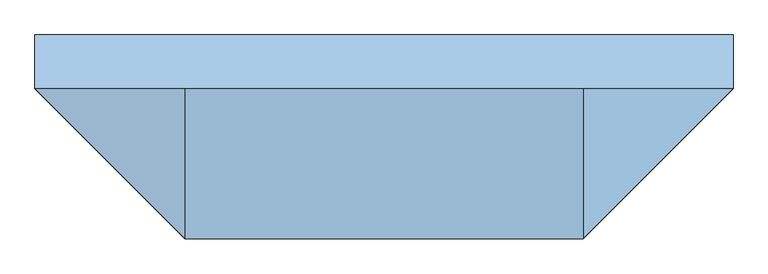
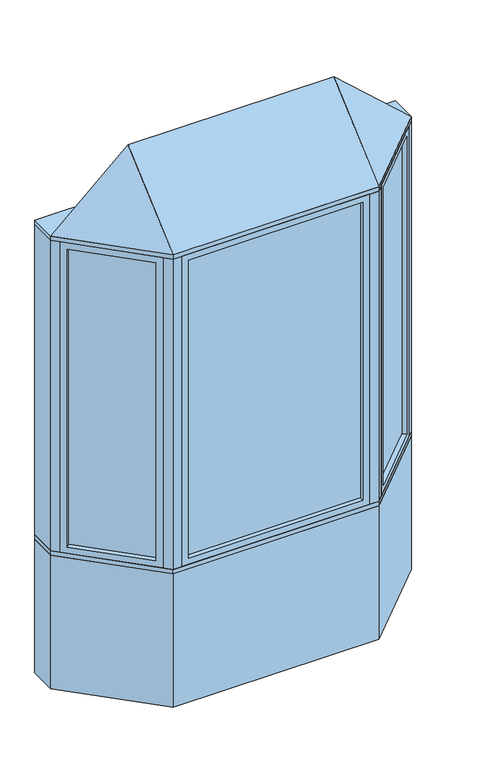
"""IFC4 building model written with IfcOpenShell, lengths in millimetres: window geometry, Pollard_Windows_Tudor Casement Bows and Bays : AML-BAY 45 AFR0518-10-500."""

from ifc_helpers import new_model, si_unit, frame, origin, origin_with_axes, place, context, project, spatial, polyline, outline, extrude, faceted_brep, source, transform, mapped, element, save


def window_94679562(model_context):
    return source(origin(), model_context, "Body", "SolidModel", [
        extrude(outline(polyline([(924.0964271, -104.763169), (598.324814, -430.5347822), (594.7327115, -426.9426797), (920.5043247, -101.1710666), (924.0964271, -104.763169)])), frame((0.0, 0.0, 823.1628), z_axis=(0.0, 0.0, 1.0), x_axis=(1.0, 0.0, 0.0)), (0.0, 0.0, 1.0), 1753.6704),
        faceted_brep([(915.116171, -113.7434252, 835.8628), (933.0766833, -131.7039374, 835.8628), (933.0766833, -131.7039374, 2564.1332), (915.116171, -113.7434252, 2564.1332), (920.5043247, -101.1710666, 823.1628), (924.0964271, -104.763169, 823.1628), (924.0964271, -104.763169, 2576.8332), (920.5043247, -101.1710666, 2576.8332), (893.5635563, -92.1908105, 835.8628), (911.5240686, -110.1513227, 835.8628), (911.5240686, -110.1513227, 2564.1332), (893.5635563, -92.1908105, 2564.1332), (958.4369265, -106.3436941, 799.998), (918.9237996, -66.8305672, 799.998), (918.9237996, -66.8305672, 2599.998), (958.4369265, -106.3436941, 2599.998), (625.2655823, -439.5150383, 2564.1332), (607.3050701, -421.5545261, 2564.1332), (598.324814, -430.5347822, 2576.8332), (594.7327115, -426.9426797, 2576.8332), (603.7129677, -417.9624236, 2564.1332), (585.7524554, -400.0019114, 2564.1332), (560.3922121, -425.3621547, 2599.998), (599.9053391, -464.8752816, 2599.998), (625.2655823, -439.5150383, 835.8628), (607.3050701, -421.5545261, 835.8628), (598.324814, -430.5347822, 823.1628), (594.7327115, -426.9426797, 823.1628), (603.7129677, -417.9624236, 835.8628), (585.7524554, -400.0019114, 835.8628), (560.3922121, -425.3621547, 799.998), (599.9053391, -464.8752816, 799.998)], [[[0, 1, 2, 3]], [[4, 5, 6, 7]], [[8, 9, 10, 11]], [[12, 13, 14, 15]], [[3, 2, 16, 17]], [[7, 6, 18, 19]], [[11, 10, 20, 21]], [[15, 14, 22, 23]], [[17, 16, 24, 25]], [[19, 18, 26, 27]], [[21, 20, 28, 29]], [[23, 22, 30, 31]], [[25, 24, 1, 0]], [[5, 26, 18, 6], [3, 17, 25, 0]], [[27, 26, 5, 4]], [[7, 19, 27, 4], [9, 28, 20, 10]], [[29, 28, 9, 8]], [[13, 30, 22, 14], [11, 21, 29, 8]], [[31, 30, 13, 12]], [[15, 23, 31, 12], [1, 24, 16, 2]]]),
        extrude(outline(polyline([(-598.324814, -430.5347822), (-924.0964271, -104.763169), (-920.5043247, -101.1710666), (-594.7327115, -426.9426797), (-598.324814, -430.5347822)])), frame((0.0, 0.0, 823.1628), z_axis=(0.0, 0.0, 1.0), x_axis=(1.0, 0.0, 0.0)), (0.0, 0.0, 1.0), 1753.6704),
        faceted_brep([(-603.7129677, -417.9624236, 2564.1332), (-585.7524554, -400.0019114, 2564.1332), (-585.7524554, -400.0019114, 835.8628), (-603.7129677, -417.9624236, 835.8628), (-598.324814, -430.5347822, 2576.8332), (-594.7327115, -426.9426797, 2576.8332), (-594.7327115, -426.9426797, 823.1628), (-598.324814, -430.5347822, 823.1628), (-625.2655823, -439.5150383, 2564.1332), (-607.3050701, -421.5545261, 2564.1332), (-607.3050701, -421.5545261, 835.8628), (-625.2655823, -439.5150383, 835.8628), (-560.3922121, -425.3621547, 2599.998), (-599.9053391, -464.8752816, 2599.998), (-599.9053391, -464.8752816, 799.998), (-560.3922121, -425.3621547, 799.998), (-893.5635563, -92.1908105, 835.8628), (-911.5240686, -110.1513227, 835.8628), (-920.5043247, -101.1710666, 823.1628), (-924.0964271, -104.763169, 823.1628), (-915.116171, -113.7434252, 835.8628), (-933.0766833, -131.7039374, 835.8628), (-958.4369265, -106.3436941, 799.998), (-918.9237996, -66.8305672, 799.998), (-893.5635563, -92.1908105, 2564.1332), (-911.5240686, -110.1513227, 2564.1332), (-920.5043247, -101.1710666, 2576.8332), (-924.0964271, -104.763169, 2576.8332), (-915.116171, -113.7434252, 2564.1332), (-933.0766833, -131.7039374, 2564.1332), (-958.4369265, -106.3436941, 2599.998), (-918.9237996, -66.8305672, 2599.998)], [[[0, 1, 2, 3]], [[4, 5, 6, 7]], [[8, 9, 10, 11]], [[12, 13, 14, 15]], [[3, 2, 16, 17]], [[7, 6, 18, 19]], [[11, 10, 20, 21]], [[15, 14, 22, 23]], [[17, 16, 24, 25]], [[19, 18, 26, 27]], [[21, 20, 28, 29]], [[23, 22, 30, 31]], [[15, 23, 31, 12], [1, 24, 16, 2]], [[25, 24, 1, 0]], [[5, 26, 18, 6], [3, 17, 25, 0]], [[27, 26, 5, 4]], [[7, 19, 27, 4], [9, 28, 20, 10]], [[29, 28, 9, 8]], [[13, 30, 22, 14], [11, 21, 29, 8]], [[31, 30, 13, 12]]]),
        extrude(outline(polyline([(491.3852, -474.8306207), (-491.3852, -474.8306207), (-491.3852, -469.7506207), (491.3852, -469.7506207), (491.3852, -474.8306207)])), frame((0.0, 0.0, 823.1628), z_axis=(0.0, 0.0, 1.0), x_axis=(1.0, 0.0, 0.0)), (0.0, 0.0, 1.0), 1753.6704),
        faceted_brep([(478.6852, -474.8306207, 835.8628), (478.6852, -500.2306207, 835.8628), (478.6852, -500.2306207, 2564.1332), (478.6852, -474.8306207, 2564.1332), (491.3852, -469.7506207, 823.1628), (491.3852, -474.8306207, 823.1628), (491.3852, -474.8306207, 2576.8332), (491.3852, -469.7506207, 2576.8332), (478.6852, -444.3506207, 835.8628), (478.6852, -469.7506207, 835.8628), (478.6852, -469.7506207, 2564.1332), (478.6852, -444.3506207, 2564.1332), (514.55, -500.2306207, 799.998), (514.55, -444.3506207, 799.998), (514.55, -444.3506207, 2599.998), (514.55, -500.2306207, 2599.998), (-478.6852, -500.2306207, 2564.1332), (-478.6852, -474.8306207, 2564.1332), (-491.3852, -474.8306207, 2576.8332), (-491.3852, -469.7506207, 2576.8332), (-478.6852, -469.7506207, 2564.1332), (-478.6852, -444.3506207, 2564.1332), (-514.55, -444.3506207, 2599.998), (-514.55, -500.2306207, 2599.998), (-478.6852, -500.2306207, 835.8628), (-478.6852, -474.8306207, 835.8628), (-491.3852, -474.8306207, 823.1628), (-491.3852, -469.7506207, 823.1628), (-478.6852, -469.7506207, 835.8628), (-478.6852, -444.3506207, 835.8628), (-514.55, -444.3506207, 799.998), (-514.55, -500.2306207, 799.998)], [[[0, 1, 2, 3]], [[4, 5, 6, 7]], [[8, 9, 10, 11]], [[12, 13, 14, 15]], [[3, 2, 16, 17]], [[7, 6, 18, 19]], [[11, 10, 20, 21]], [[15, 14, 22, 23]], [[17, 16, 24, 25]], [[19, 18, 26, 27]], [[21, 20, 28, 29]], [[23, 22, 30, 31]], [[15, 23, 31, 12], [1, 24, 16, 2]], [[25, 24, 1, 0]], [[5, 26, 18, 6], [3, 17, 25, 0]], [[27, 26, 5, 4]], [[7, 19, 27, 4], [9, 28, 20, 10]], [[29, 28, 9, 8]], [[13, 30, 22, 14], [11, 21, 29, 8]], [[31, 30, 13, 12]]]),
        faceted_brep([(990.0, -74.7806207, 2625.398), (564.55, -500.2306207, 2625.398), (-564.55, -500.2306207, 2625.398), (-990.0, -74.7806207, 2625.398), (-564.55, -74.7806207, 3006.398), (564.55, -74.7806207, 3006.398)], [[[0, 1, 2, 3]], [[3, 2, 4]], [[2, 1, 5, 4]], [[1, 0, 5]], [[0, 3, 4, 5]]]),
        extrude(outline(polyline([(-990.0, 77.6193793), (990.0, 77.6193793), (990.0, -74.7806207), (564.55, -500.2306207), (-564.55, -500.2306207), (-990.0, -74.7806207), (-990.0, 77.6193793)])), frame((0.0, 0.0, 2599.998), z_axis=(0.0, 0.0, 1.0), x_axis=(1.0, 0.0, 0.0)), (0.0, 0.0, 1.0), 25.4),
        extrude(outline(polyline([(-990.0, -74.7806207), (-990.0, 77.6193793), (-926.8738531, 77.6193793), (-926.8738531, -74.7806207), (-958.4369265, -106.3436941), (-990.0, -74.7806207)])), frame((0.0, 0.0, 799.998), z_axis=(0.0, 0.0, 1.0), x_axis=(1.0, 0.0, 0.0)), (0.0, 0.0, 1.0), 1800.0),
        extrude(outline(polyline([(990.0, 77.6193793), (990.0, -74.7806207), (958.4369265, -106.3436941), (926.8738531, -74.7806207), (926.8738531, 77.6193793), (990.0, 77.6193793)])), frame((0.0, 0.0, 799.998), z_axis=(0.0, 0.0, 1.0), x_axis=(1.0, 0.0, 0.0)), (0.0, 0.0, 1.0), 1800.0),
        extrude(outline(polyline([(564.55, -500.2306207), (514.55, -500.2306207), (514.55, -450.2306207), (543.8393219, -450.2306207), (564.55, -429.5199425), (599.9053391, -464.8752816), (564.55, -500.2306207)])), frame((0.0, 0.0, 799.998), z_axis=(0.0, 0.0, 1.0), x_axis=(1.0, 0.0, 0.0)), (0.0, 0.0, 1.0), 1800.0),
        extrude(outline(polyline([(-564.55, -500.2306207), (-599.9053391, -464.8752816), (-564.55, -429.5199425), (-543.8393219, -450.2306207), (-514.55, -450.2306207), (-514.55, -500.2306207), (-564.55, -500.2306207)])), frame((0.0, 0.0, 799.998), z_axis=(0.0, 0.0, 1.0), x_axis=(1.0, 0.0, 0.0)), (0.0, 0.0, 1.0), 1800.0),
        extrude(outline(polyline([(-564.55, -500.2306207), (-990.0, -74.7806207), (-990.0, 77.6193793), (-926.8738531, 77.6193793), (-501.4238531, -347.8306207), (501.4238531, -347.8306207), (926.8738531, 77.6193793), (990.0, 77.6193793), (990.0, -74.7806207), (564.55, -500.2306207), (-564.55, -500.2306207)])), frame((0.0, 0.0, 774.598), z_axis=(0.0, 0.0, 1.0), x_axis=(1.0, 0.0, 0.0)), (0.0, 0.0, 1.0), 25.4),
        extrude(outline(polyline([(-990.0, -74.7806207), (-990.0, 77.6193793), (-926.8738531, 77.6193793), (-501.4238531, -347.8306207), (501.4238531, -347.8306207), (926.8738531, 77.6193793), (990.0, 77.6193793), (990.0, -74.7806207), (564.55, -500.2306207), (-564.55, -500.2306207), (-990.0, -74.7806207)])), origin_with_axes(), (0.0, 0.0, 1.0), 774.598),
    ])


if __name__ == "__main__":
    model = new_model("IFC4")
    model_context = context("Model", 3, world=origin())
    ifc_project = project(units=[si_unit("LENGTHUNIT", "METRE", prefix="MILLI")], contexts=[model_context])
    site = spatial("IfcSite", under=ifc_project)
    building = spatial("IfcBuilding", under=site)
    placement = place(None, origin())
    window_shape = window_94679562(model_context)
    element("IfcWindow", 1, ObjectType="Pollard_Windows_Tudor Casement Bows and Bays : AML-BAY 45 AFR0518-10-500", at=placement, inside=building, context=model_context, shape_type="MappedRepresentation", body=[
        mapped(window_shape, transform((0.0, 0.0, 0.0), x_axis=(1.0, 0.0, 0.0), y_axis=(0.0, 1.0, 0.0), z_axis=(0.0, 0.0, 1.0))),
    ])
    save(model, "model.ifc")
